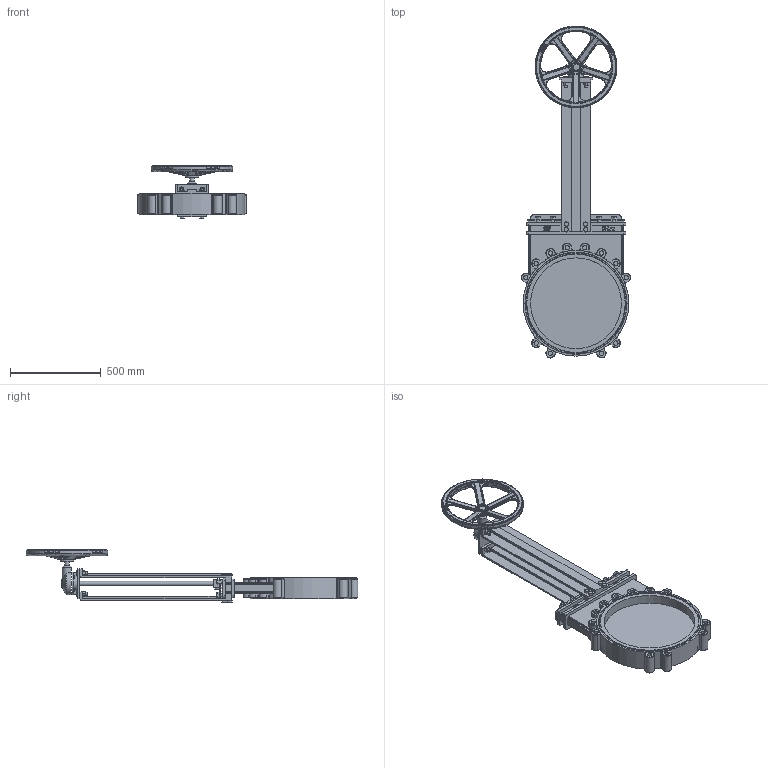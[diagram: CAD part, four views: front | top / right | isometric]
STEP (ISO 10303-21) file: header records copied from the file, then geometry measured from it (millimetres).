
FILE_DESCRIPTION(('STEP AP242'), '1');
FILE_NAME('GVKN1331N-2W-Fb-R Çàäâèæêà øèáåðíàÿ DN.ru Äó500 Ðó10', '2026-05-25T19:56:47', ('DN.ru'), (''), 'C3D Converter', 'C3D Toolkit', '');
FILE_SCHEMA(('AP242_MANAGED_MODEL_BASED_3D_ENGINEERING_MIM_LF { 1 0 10303 442 1 1 4 }'));
Length unit declared in the file: millimetre
Products named in the file (1): GVKN1331N-2W-Fb-R
Bounding box: 602.36 x 1826.68 x 291.94 mm (x, y, z)
Volume: 27237342.1 mm3; surface area: 2619970.6 mm2
Topology: 1 solids, 1 shells, 2062 faces, 5187 edges, 3230 vertices
Faces by surface type: plane 875, cylinder 436, torus 282, bspline 209, extrusion 143, sphere 59, cone 58
Full cylindrical faces by diameter (mm): 10 x4, 16 x8, 18 x8, 24 x24, 25 x3, 50 x1, 52.5 x1, 75 x1, 125 x2, 390 x1, 402 x1, 438 x1, 450 x1, 500 x2, 542 x2, 562 x2, 582 x1
Entity records: 122365 total; most frequent: CARTESIAN_POINT 58542, ORIENTED_EDGE 10140, DIRECTION 9015, EDGE_CURVE 5070, AXIS2_PLACEMENT_3D 3247, VERTEX_POINT 3230, VECTOR 2521, LINE 2378
